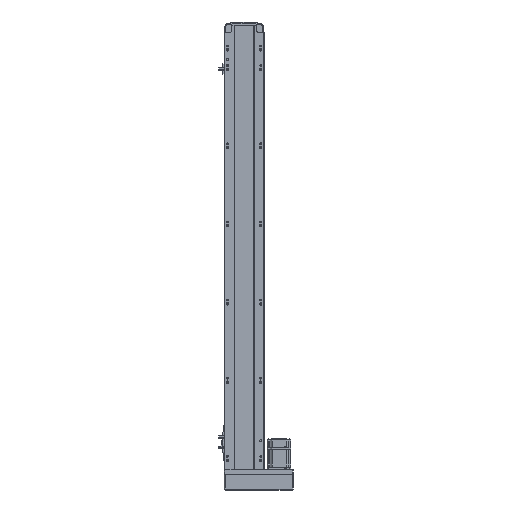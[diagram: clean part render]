
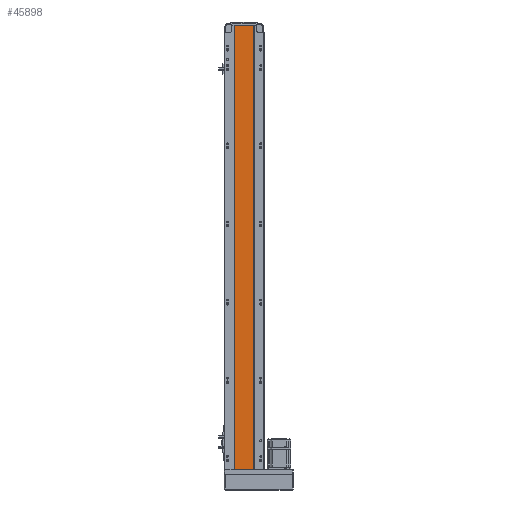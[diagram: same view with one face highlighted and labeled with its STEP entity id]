
A CAD part, front view. The second image highlights one B-rep face of the part: STEP entity #45898.
In plain terms, the highlighted planar face has unit normal (0, -1, 0).
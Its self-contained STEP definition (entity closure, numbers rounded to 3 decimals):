
#5863 = AXIS2_PLACEMENT_3D ( 'NONE', #13629, #61172, #46808 ) ;
#6549 = CARTESIAN_POINT ( 'NONE',  ( -24.5, 2., 1137. ) ) ;
#7267 = VECTOR ( 'NONE', #29667, 1000. ) ;
#10534 = DIRECTION ( 'NONE',  ( 1., 0., 0. ) ) ;
#12513 = DIRECTION ( 'NONE',  ( 0., 0., -1. ) ) ;
#13629 = CARTESIAN_POINT ( 'NONE',  ( 0., 2., 1137. ) ) ;
#16163 = ORIENTED_EDGE ( 'NONE', *, *, #23193, .T. ) ;
#18987 = DIRECTION ( 'NONE',  ( 1., 0., 0. ) ) ;
#19241 = PLANE ( 'NONE',  #5863 ) ;
#20391 = EDGE_CURVE ( 'NONE', #20530, #20453, #22935, .T. ) ;
#20453 = VERTEX_POINT ( 'NONE', #39244 ) ;
#20530 = VERTEX_POINT ( 'NONE', #22508 ) ;
#21459 = EDGE_CURVE ( 'NONE', #57082, #20530, #60537, .T. ) ;
#22508 = CARTESIAN_POINT ( 'NONE',  ( 24.5, 2., 1137. ) ) ;
#22935 = LINE ( 'NONE', #58965, #7267 ) ;
#23193 = EDGE_CURVE ( 'NONE', #57082, #61099, #45520, .T. ) ;
#25655 = VECTOR ( 'NONE', #18987, 1000. ) ;
#26253 = EDGE_LOOP ( 'NONE', ( #47808, #40626, #34464, #16163 ) ) ;
#27078 = VECTOR ( 'NONE', #10534, 1000. ) ;
#29667 = DIRECTION ( 'NONE',  ( 0., 0., -1. ) ) ;
#34454 = EDGE_CURVE ( 'NONE', #61099, #20453, #44263, .T. ) ;
#34464 = ORIENTED_EDGE ( 'NONE', *, *, #21459, .F. ) ;
#38331 = CARTESIAN_POINT ( 'NONE',  ( -24.5, 2., 1137. ) ) ;
#38515 = CARTESIAN_POINT ( 'NONE',  ( 0., 2., 0. ) ) ;
#39244 = CARTESIAN_POINT ( 'NONE',  ( 24.5, 2., 0. ) ) ;
#40626 = ORIENTED_EDGE ( 'NONE', *, *, #20391, .F. ) ;
#43759 = CARTESIAN_POINT ( 'NONE',  ( -24.5, 2., 1137. ) ) ;
#44263 = LINE ( 'NONE', #38515, #25655 ) ;
#45520 = LINE ( 'NONE', #6549, #49283 ) ;
#45898 = ADVANCED_FACE ( 'NONE', ( #52492 ), #19241, .F. ) ;
#46808 = DIRECTION ( 'NONE',  ( 0., 0., 1. ) ) ;
#47808 = ORIENTED_EDGE ( 'NONE', *, *, #34454, .T. ) ;
#48880 = CARTESIAN_POINT ( 'NONE',  ( -24.5, 2., 0. ) ) ;
#49283 = VECTOR ( 'NONE', #12513, 1000. ) ;
#52492 = FACE_OUTER_BOUND ( 'NONE', #26253, .T. ) ;
#57082 = VERTEX_POINT ( 'NONE', #38331 ) ;
#58965 = CARTESIAN_POINT ( 'NONE',  ( 24.5, 2., 1137. ) ) ;
#60537 = LINE ( 'NONE', #43759, #27078 ) ;
#61099 = VERTEX_POINT ( 'NONE', #48880 ) ;
#61172 = DIRECTION ( 'NONE',  ( 0., 1., 0. ) ) ;
